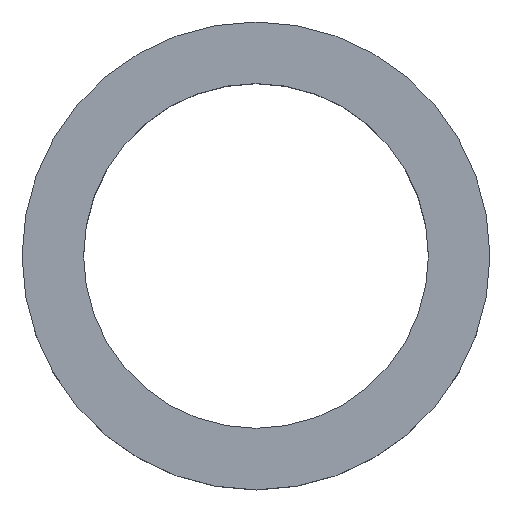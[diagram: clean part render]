
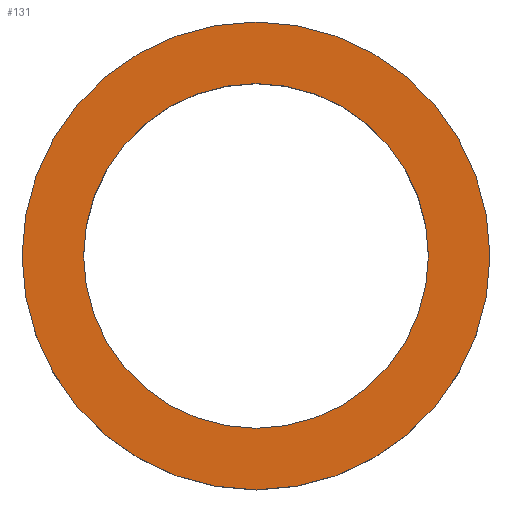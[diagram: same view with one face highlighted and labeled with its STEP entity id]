
A CAD part, top view. The second image highlights one B-rep face of the part: STEP entity #131.
In plain terms, the highlighted planar face has unit normal (0, 0, 1) as drawn and (0, 0, -1) by its records, which use the part's own axes.
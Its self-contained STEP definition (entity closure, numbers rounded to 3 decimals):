
#131 = ADVANCED_FACE( '', ( #169, #170 ), #171, .F. );
#169 = FACE_BOUND( '', #216, .T. );
#170 = FACE_OUTER_BOUND( '', #217, .T. );
#171 = PLANE( '', #218 );
#216 = EDGE_LOOP( '', ( #267 ) );
#217 = EDGE_LOOP( '', ( #268 ) );
#218 = AXIS2_PLACEMENT_3D( '', #269, #270, #271 );
#267 = ORIENTED_EDGE( '', *, *, #344, .F. );
#268 = ORIENTED_EDGE( '', *, *, #345, .T. );
#269 = CARTESIAN_POINT( '', ( -35., 0., 0. ) );
#270 = DIRECTION( '', ( 0., 0., 1. ) );
#271 = DIRECTION( '', ( 1., 0., 0. ) );
#344 = EDGE_CURVE( '', #369, #369, #370, .T. );
#345 = EDGE_CURVE( '', #371, #371, #372, .T. );
#369 = VERTEX_POINT( '', #395 );
#370 = CIRCLE( '', #396, 35. );
#371 = VERTEX_POINT( '', #397 );
#372 = CIRCLE( '', #398, 47.5 );
#395 = CARTESIAN_POINT( '', ( -35., 0., 0. ) );
#396 = AXIS2_PLACEMENT_3D( '', #421, #422, #423 );
#397 = CARTESIAN_POINT( '', ( -47.5, 0., 0. ) );
#398 = AXIS2_PLACEMENT_3D( '', #424, #425, #426 );
#421 = CARTESIAN_POINT( '', ( 0., 0., 0. ) );
#422 = DIRECTION( '', ( 0., 0., -1. ) );
#423 = DIRECTION( '', ( -1., 0., 0. ) );
#424 = CARTESIAN_POINT( '', ( 0., 0., 0. ) );
#425 = DIRECTION( '', ( 0., 0., -1. ) );
#426 = DIRECTION( '', ( -1., 0., 0. ) );
